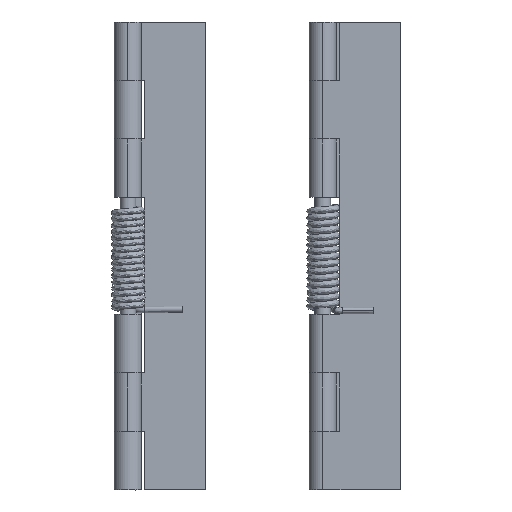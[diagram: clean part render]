
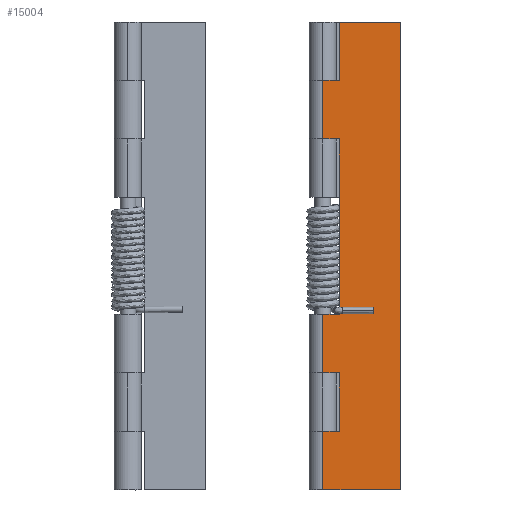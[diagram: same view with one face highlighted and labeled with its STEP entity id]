
A CAD part, top view. The second image highlights one B-rep face of the part: STEP entity #15004.
In plain terms, the highlighted planar face has unit normal (-0.001, 0, 1).
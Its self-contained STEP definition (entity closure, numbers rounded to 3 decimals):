
#14851=CARTESIAN_POINT('',(49.998,120.0,5.53));
#14852=VERTEX_POINT('',#14851);
#14853=CARTESIAN_POINT('',(34.248,120.0,5.513));
#14854=VERTEX_POINT('',#14853);
#14855=CARTESIAN_POINT('',(49.998,120.0,5.53));
#14856=DIRECTION('',(-1.,0.0,-0.001));
#14857=VECTOR('',#14856,15.75);
#14858=LINE('',#14855,#14857);
#14859=EDGE_CURVE('',#14852,#14854,#14858,.T.);
#14883=CARTESIAN_POINT('',(49.998,0.,5.53));
#14884=VERTEX_POINT('',#14883);
#14885=CARTESIAN_POINT('',(49.998,0.,5.53));
#14886=DIRECTION('',(0.0,1.0,0.0));
#14887=VECTOR('',#14886,120.0);
#14888=LINE('',#14885,#14887);
#14889=EDGE_CURVE('',#14884,#14852,#14888,.T.);
#14901=CARTESIAN_POINT('',(26.498,135.0,5.505));
#14902=DIRECTION('',(-0.001,0.,1.));
#14903=DIRECTION('',(0.0,1.0,0.0));
#14904=AXIS2_PLACEMENT_3D('',#14901,#14902,#14903);
#14905=PLANE('',#14904);
#14906=CARTESIAN_POINT('',(34.248,45.0,5.513));
#14907=VERTEX_POINT('',#14906);
#14908=CARTESIAN_POINT('',(34.248,90.0,5.513));
#14909=VERTEX_POINT('',#14908);
#14910=CARTESIAN_POINT('',(34.248,45.0,5.513));
#14911=DIRECTION('',(0.0,1.0,0.0));
#14912=VECTOR('',#14911,45.0);
#14913=LINE('',#14910,#14912);
#14914=EDGE_CURVE('',#14907,#14909,#14913,.T.);
#14915=ORIENTED_EDGE('',*,*,#14914,.F.);
#14916=CARTESIAN_POINT('',(29.998,45.0,5.509));
#14917=VERTEX_POINT('',#14916);
#14918=CARTESIAN_POINT('',(29.998,45.0,5.509));
#14919=DIRECTION('',(1.,0.0,0.001));
#14920=VECTOR('',#14919,4.25);
#14921=LINE('',#14918,#14920);
#14922=EDGE_CURVE('',#14917,#14907,#14921,.T.);
#14923=ORIENTED_EDGE('',*,*,#14922,.F.);
#14924=CARTESIAN_POINT('',(29.998,30.,5.509));
#14925=VERTEX_POINT('',#14924);
#14926=CARTESIAN_POINT('',(29.998,45.0,5.509));
#14927=DIRECTION('',(0.0,-1.0,0.0));
#14928=VECTOR('',#14927,15.);
#14929=LINE('',#14926,#14928);
#14930=EDGE_CURVE('',#14917,#14925,#14929,.T.);
#14931=ORIENTED_EDGE('',*,*,#14930,.T.);
#14932=CARTESIAN_POINT('',(34.248,30.,5.513));
#14933=VERTEX_POINT('',#14932);
#14934=CARTESIAN_POINT('',(29.998,30.,5.509));
#14935=DIRECTION('',(1.,0.0,0.001));
#14936=VECTOR('',#14935,4.25);
#14937=LINE('',#14934,#14936);
#14938=EDGE_CURVE('',#14925,#14933,#14937,.T.);
#14939=ORIENTED_EDGE('',*,*,#14938,.T.);
#14940=CARTESIAN_POINT('',(34.248,15.,5.513));
#14941=VERTEX_POINT('',#14940);
#14942=CARTESIAN_POINT('',(34.248,15.,5.513));
#14943=DIRECTION('',(0.0,1.0,0.0));
#14944=VECTOR('',#14943,15.);
#14945=LINE('',#14942,#14944);
#14946=EDGE_CURVE('',#14941,#14933,#14945,.T.);
#14947=ORIENTED_EDGE('',*,*,#14946,.F.);
#14948=CARTESIAN_POINT('',(29.998,15.,5.509));
#14949=VERTEX_POINT('',#14948);
#14950=CARTESIAN_POINT('',(29.998,15.,5.509));
#14951=DIRECTION('',(1.,0.0,0.001));
#14952=VECTOR('',#14951,4.25);
#14953=LINE('',#14950,#14952);
#14954=EDGE_CURVE('',#14949,#14941,#14953,.T.);
#14955=ORIENTED_EDGE('',*,*,#14954,.F.);
#14956=CARTESIAN_POINT('',(29.998,0.,5.509));
#14957=VERTEX_POINT('',#14956);
#14958=CARTESIAN_POINT('',(29.998,15.,5.509));
#14959=DIRECTION('',(0.0,-1.0,0.0));
#14960=VECTOR('',#14959,15.0);
#14961=LINE('',#14958,#14960);
#14962=EDGE_CURVE('',#14949,#14957,#14961,.T.);
#14963=ORIENTED_EDGE('',*,*,#14962,.T.);
#14964=CARTESIAN_POINT('',(29.998,0.,5.509));
#14965=DIRECTION('',(1.,0.0,0.001));
#14966=VECTOR('',#14965,20.0);
#14967=LINE('',#14964,#14966);
#14968=EDGE_CURVE('',#14957,#14884,#14967,.T.);
#14969=ORIENTED_EDGE('',*,*,#14968,.T.);
#14970=ORIENTED_EDGE('',*,*,#14889,.T.);
#14971=ORIENTED_EDGE('',*,*,#14859,.T.);
#14972=CARTESIAN_POINT('',(34.248,105.0,5.513));
#14973=VERTEX_POINT('',#14972);
#14974=CARTESIAN_POINT('',(34.248,105.0,5.513));
#14975=DIRECTION('',(0.0,1.0,0.0));
#14976=VECTOR('',#14975,15.0);
#14977=LINE('',#14974,#14976);
#14978=EDGE_CURVE('',#14973,#14854,#14977,.T.);
#14979=ORIENTED_EDGE('',*,*,#14978,.F.);
#14980=CARTESIAN_POINT('',(29.998,105.0,5.509));
#14981=VERTEX_POINT('',#14980);
#14982=CARTESIAN_POINT('',(29.998,105.0,5.509));
#14983=DIRECTION('',(1.,0.0,0.001));
#14984=VECTOR('',#14983,4.25);
#14985=LINE('',#14982,#14984);
#14986=EDGE_CURVE('',#14981,#14973,#14985,.T.);
#14987=ORIENTED_EDGE('',*,*,#14986,.F.);
#14988=CARTESIAN_POINT('',(29.998,90.0,5.509));
#14989=VERTEX_POINT('',#14988);
#14990=CARTESIAN_POINT('',(29.998,105.0,5.509));
#14991=DIRECTION('',(0.0,-1.0,0.0));
#14992=VECTOR('',#14991,15.0);
#14993=LINE('',#14990,#14992);
#14994=EDGE_CURVE('',#14981,#14989,#14993,.T.);
#14995=ORIENTED_EDGE('',*,*,#14994,.T.);
#14996=CARTESIAN_POINT('',(29.998,90.0,5.509));
#14997=DIRECTION('',(1.,0.0,0.001));
#14998=VECTOR('',#14997,4.25);
#14999=LINE('',#14996,#14998);
#15000=EDGE_CURVE('',#14989,#14909,#14999,.T.);
#15001=ORIENTED_EDGE('',*,*,#15000,.T.);
#15002=EDGE_LOOP('',(#14915,#14923,#14931,#14939,#14947,#14955,#14963,#14969,#14970,#14971,#14979,#14987,#14995,#15001));
#15003=FACE_OUTER_BOUND('',#15002,.T.);
#15004=ADVANCED_FACE('',(#15003),#14905,.T.);
